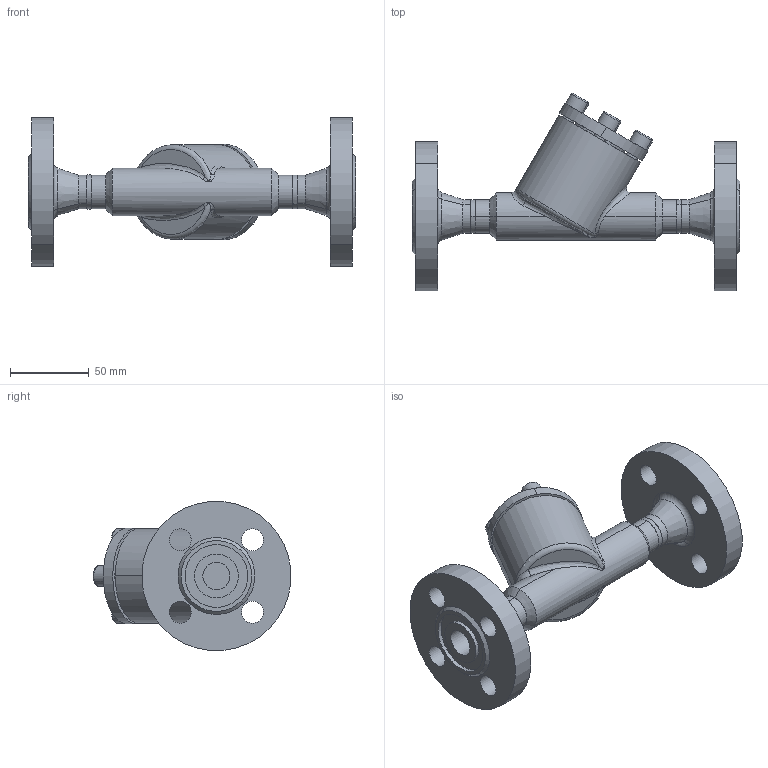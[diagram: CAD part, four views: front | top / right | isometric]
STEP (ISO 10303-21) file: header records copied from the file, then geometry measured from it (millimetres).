
FILE_DESCRIPTION (( 'STEP AP214' ), '1' );
FILE_NAME ('SS52320D10-DN015_DIN-FL-N_PS40.STEP', '2006-05-02T05:46:26', ( 'Herr Grams' ), ( 'AWP GmbH' ), 'SwSTEP 2.0', 'SolidWorks 2002296', '' );
FILE_SCHEMA (( 'AUTOMOTIVE_DESIGN' ));
Length unit declared in the file: millimetre
Products named in the file (9): SS52320D10-DN015_DIN-FL-N_PS40; SS52300K10_Deck+Schr-DN10-20_Standard; Deckel52300K10-DN10-20_Standard; Zylinderschraube-DIN912_M 8x 16; Gehäuse-kpl16320-DN015_DIN_PS40_Standard; Flansch-DIN2635-Nut_PS40_DIN-Flansch-DN015_PS40-Nut; Gehäuse16300-DN015_Standard; bead16320-DN015-1_Standard; bead16320-DN015-2_Standard
Assembly tree (12 placements, depth 3):
  SS52320D10-DN015_DIN-FL-N_PS40
    Gehäuse-kpl16320-DN015_DIN_PS40_Standard
      Gehäuse16300-DN015_Standard
      bead16320-DN015-2_Standard
      Flansch-DIN2635-Nut_PS40_DIN-Flansch-DN015_PS40-Nut  x2
      bead16320-DN015-1_Standard
    SS52300K10_Deck+Schr-DN10-20_Standard
      Zylinderschraube-DIN912_M 8x 16  x4
      Deckel52300K10-DN10-20_Standard
Bounding box: 208 x 125.68 x 94.64 mm (x, y, z)
Volume: 407500.1 mm3; surface area: 89973.7 mm2
Topology: 10 solids, 10 shells, 214 faces, 471 edges, 297 vertices
Faces by surface type: cylinder 83, plane 67, cone 36, bspline 14, torus 14
Entity records: 18808 total; most frequent: CARTESIAN_POINT 15353, DIRECTION 636, ORIENTED_EDGE 570, EDGE_CURVE 285, AXIS2_PLACEMENT_3D 270, VERTEX_POINT 179, EDGE_LOOP 160, CIRCLE 139
